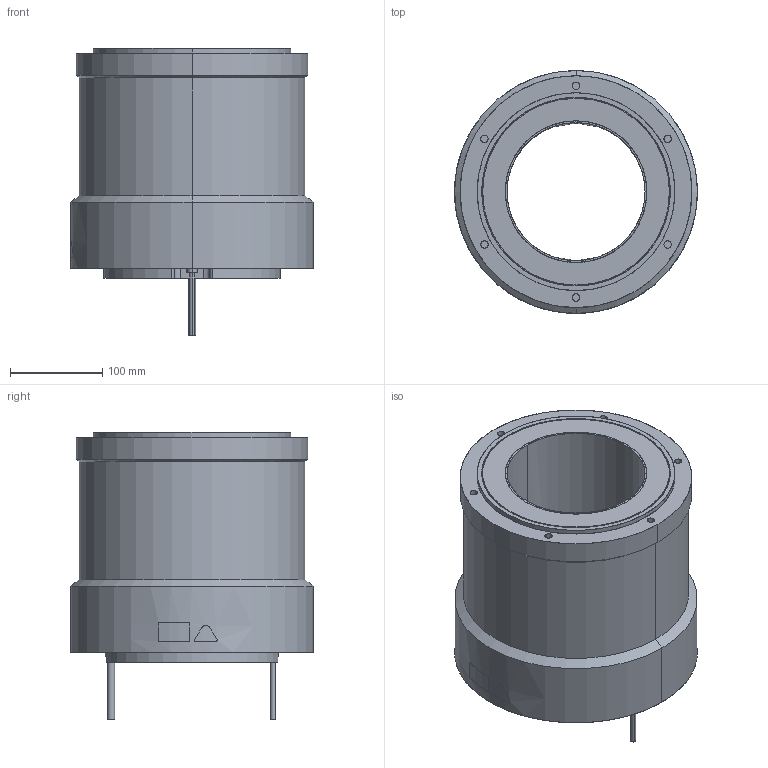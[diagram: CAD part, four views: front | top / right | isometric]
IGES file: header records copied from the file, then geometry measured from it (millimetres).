
Start section: SolidWorks IGES file using analytic representation for surfaces
Bounding box: 264.08 x 264 x 312 mm (x, y, z)
Surface area: 404264.5 mm2 (no closed solid volume)
Topology: 0 solids, 0 shells, 171 faces, 3659 edges, 3659 vertices
Faces by surface type: revolution 107, bspline 64
